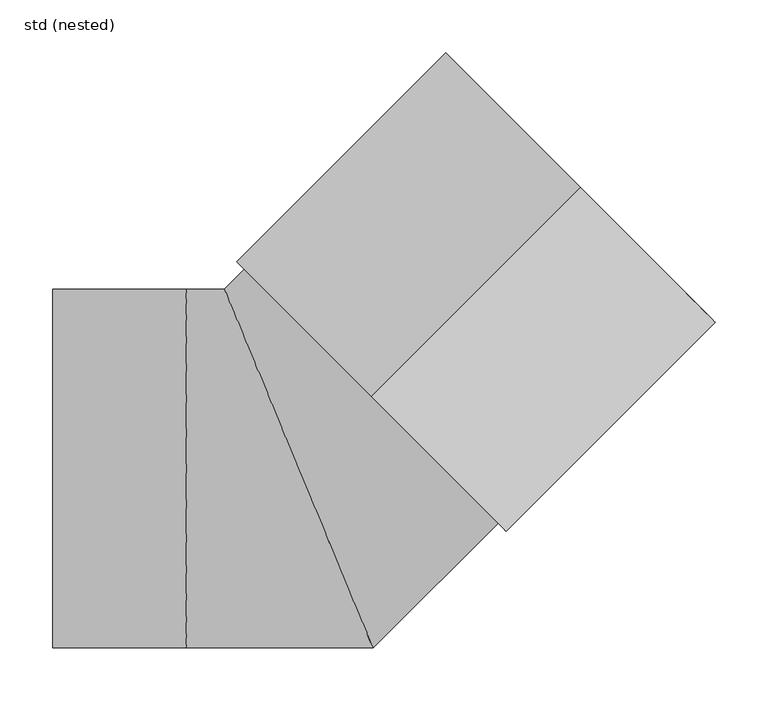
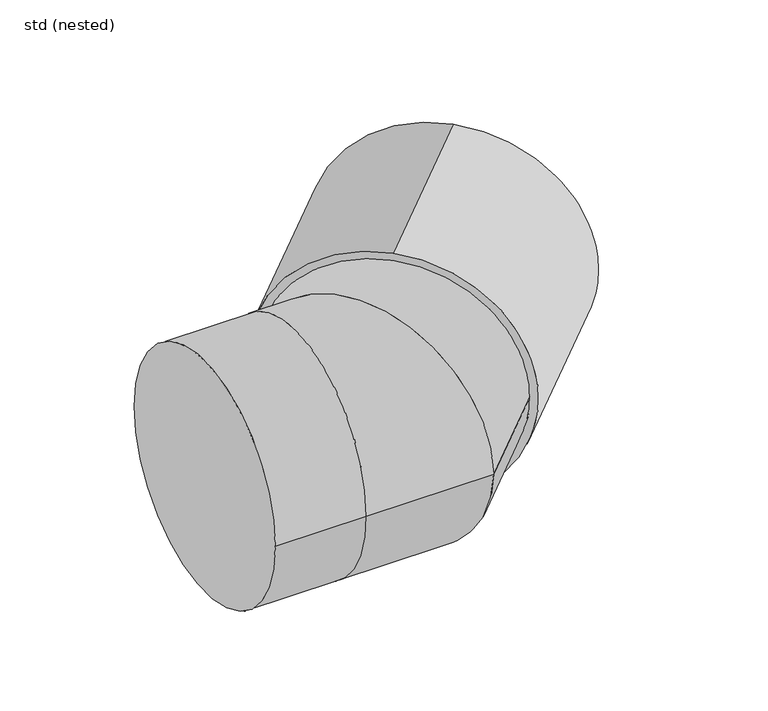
"""IFC4 building model written with IfcOpenShell, lengths in millimetres: pipe fitting geometry, NLRS_52_PIF_WPB_Ultra Kyma bocht 1MV SH_Dyka : std (nested)."""

from ifc_helpers import new_model, si_unit, point, frame, origin, origin_2d, place, context, project, spatial, circle_curve, ellipse_curve, trimmed, segment, composite_curve, outline, extrude, source, transform, mapped, element, save
from ifc_brep_helpers import plane_surface, cylinder_surface, advanced_brep


def std_nested_15c7ba10(model_context):
    return source(origin(), model_context, "Body", "SolidModel", [
        advanced_brep(
        [(-106.4227894, -170.0, 0.0), (70.3963977, -170.0, 0.0), (-70.3963977, 170.0, 0.0), (-106.4227894, 170.0, 0.0), (195.4514374, -44.9949523, 0.0), (75.267319, 75.2372301, 170.0), (-44.9167994, 195.4694125, 0.0), (75.267319, 75.2372301, -170.0), (167.6178073, 167.5508003, -170.0), (167.6178073, 167.5508003, 170.0), (-233.0, -170.0, 0.0), (-233.0, 170.0, 0.0)],
        [
            (0, 1),
            (1, 2, ellipse_curve(frame((0.0, 0.0, 0.0), z_axis=(-0.9239177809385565, -0.3825910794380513, 0.0), x_axis=(-0.3825910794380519, 0.9239177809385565, 0.0)), 183.9990565, 170.0)),
            (2, 3),
            (3, 0, circle_curve(frame((-106.4227894, 0.0, 0.0), z_axis=(1.0, 0.0, 0.0), x_axis=(0.0, 1.0, 0.0)), 170.0)),
            (0, 3, circle_curve(frame((-106.4227894, 0.0, 0.0), z_axis=(1.0, 0.0, 0.0), x_axis=(0.0, 1.0, 0.0)), 170.0)),
            (2, 1, ellipse_curve(frame((0.0, 0.0, 0.0), z_axis=(-0.9239177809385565, -0.3825910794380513, 0.0), x_axis=(-0.3825910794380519, 0.9239177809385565, 0.0)), 183.9990565, 170.0)),
            (1, 4),
            (4, 5, circle_curve(frame((75.267319, 75.2372301, 0.0), z_axis=(-0.7072481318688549, -0.7069654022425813, 0.0), x_axis=(-0.7069654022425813, 0.7072481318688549, 0.0)), 170.0)),
            (5, 6, circle_curve(frame((75.267319, 75.2372301, 0.0), z_axis=(-0.7072481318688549, -0.7069654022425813, 0.0), x_axis=(-0.7069654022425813, 0.7072481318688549, 0.0)), 170.0)),
            (6, 2),
            (6, 7, circle_curve(frame((75.267319, 75.2372301, 0.0), z_axis=(-0.7072481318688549, -0.7069654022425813, 0.0), x_axis=(-0.7069654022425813, 0.7072481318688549, 0.0)), 170.0)),
            (7, 4, circle_curve(frame((75.267319, 75.2372301, 0.0), z_axis=(-0.7072481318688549, -0.7069654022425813, 0.0), x_axis=(-0.7069654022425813, 0.7072481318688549, 0.0)), 170.0)),
            (8, 9, circle_curve(frame((167.6178073, 167.5508003, 0.0), z_axis=(0.7072481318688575, 0.7069654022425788, 0.0), x_axis=(0.0, 0.0, 1.0)), 170.0)),
            (9, 8, circle_curve(frame((167.6178073, 167.5508003, 0.0), z_axis=(0.7072481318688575, 0.7069654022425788, 0.0), x_axis=(0.0, 0.0, 1.0)), 170.0)),
            (8, 7),
            (5, 9),
            (10, 11, circle_curve(frame((-233.0, 0.0, 0.0), z_axis=(-1.0, 0.0, 0.0), x_axis=(0.0, 1.0, 0.0)), 170.0)),
            (11, 10, circle_curve(frame((-233.0, 0.0, 0.0), z_axis=(-1.0, 0.0, 0.0), x_axis=(0.0, 1.0, 0.0)), 170.0)),
            (10, 0),
            (3, 11),
        ],
        [
            cylinder_surface(frame((-106.4227894, 0.0, 0.0), z_axis=(-1.0, 0.0, 0.0), x_axis=(0.0, 1.0, 0.0)), 170.0),
            cylinder_surface(frame((0.0, 0.0, 0.0), z_axis=(-0.7072481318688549, -0.7069654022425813, 0.0), x_axis=(-0.7069654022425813, 0.7072481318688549, 0.0)), 170.0),
            plane_surface(frame((167.6178073, 167.5508003, 170.0), z_axis=(0.7072481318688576, 0.7069654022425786, 0.0), x_axis=(0.7069654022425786, -0.7072481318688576, 0.0))),
            cylinder_surface(frame((75.267319, 75.2372301, 0.0), z_axis=(0.7072481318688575, 0.7069654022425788, 0.0), x_axis=(0.0, 0.0, 1.0)), 170.0),
            plane_surface(frame((-233.0, 170.0, 0.0), z_axis=(-1.0, 0.0, 0.0), x_axis=(0.0, 0.0, -1.0))),
        ],
        [
            (0, [[1, 2, 3, 4]]),
            (0, [[-1, 5, -3, 6]]),
            (1, [[-2, 7, 8, 9, 10]]),
            (1, [[-6, -10, 11, 12, -7]]),
            (2, [[13, 14]]),
            (3, [[-13, 15, -11, -9, 16]]),
            (3, [[-14, -16, -8, -12, -15]]),
            (4, [[17, 18]]),
            (0, [[-17, 19, -4, 20]]),
            (0, [[-18, -20, -5, -19]]),
        ],
    ),
        extrude(outline(composite_curve([segment(trimmed(circle_curve(origin_2d(), 181.0), [point((-181.0, 0.0))], [point((181.0, 0.0))], False, "CARTESIAN"), True, "CONTINUOUS"), segment(trimmed(circle_curve(origin_2d(), 181.0), [point((181.0, 0.0))], [point((-181.0, 0.0))], False, "CARTESIAN"), True, "CONTINUOUS")], self_intersect=False), holes=[composite_curve([segment(trimmed(circle_curve(origin_2d(), 170.0), [point((170.0, 0.0))], [point((-170.0, 0.0))], True, "CARTESIAN"), True, "CONTINUOUS"), segment(trimmed(circle_curve(origin_2d(), 170.0), [point((-170.0, 0.0))], [point((170.0, 0.0))], True, "CARTESIAN"), True, "CONTINUOUS")], self_intersect=False)]), frame((68.6030688, 68.575644, 0.0), z_axis=(0.7072481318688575, 0.7069654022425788, 0.0), x_axis=(0.0, 0.0, 1.0)), (0.0, 0.0, 1.0), 280.0),
    ])


if __name__ == "__main__":
    model = new_model("IFC4")
    model_context = context("Model", 3, world=origin())
    ifc_project = project(units=[si_unit("LENGTHUNIT", "METRE", prefix="MILLI")], contexts=[model_context])
    site = spatial("IfcSite", under=ifc_project)
    building = spatial("IfcBuilding", under=site)
    placement = place(None, origin())
    std_nested_shape = std_nested_15c7ba10(model_context)
    element("IfcPipeFitting", 1, ObjectType="NLRS_52_PIF_WPB_Ultra Kyma bocht 1MV SH_Dyka : std (nested)", at=placement, inside=building, context=model_context, shape_type="MappedRepresentation", body=[
        mapped(std_nested_shape, transform((0.0, 0.0, 0.0), x_axis=(1.0, 0.0, 0.0), y_axis=(0.0, 1.0, 0.0), z_axis=(0.0, 0.0, 1.0))),
    ])
    save(model, "model.ifc")
